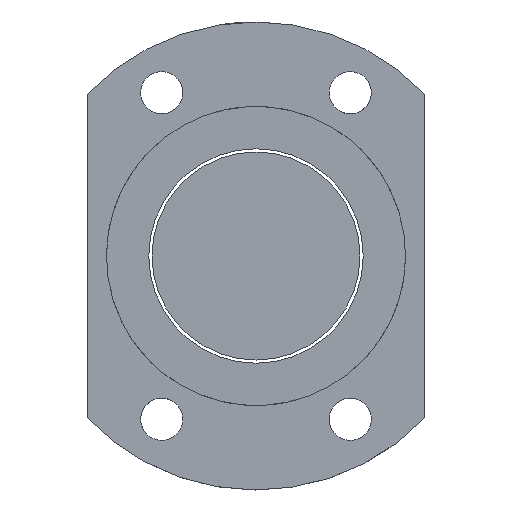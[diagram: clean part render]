
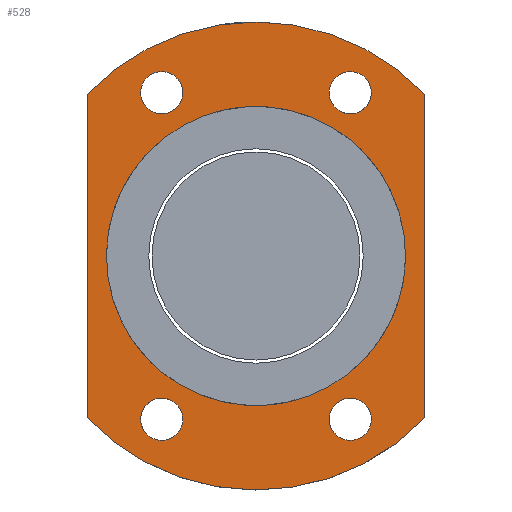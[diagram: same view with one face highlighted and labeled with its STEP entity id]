
A CAD part, left-side view. The second image highlights one B-rep face of the part: STEP entity #528.
In plain terms, the highlighted planar face has unit normal (-1, 0, 0).
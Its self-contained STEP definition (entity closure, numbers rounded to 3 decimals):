
#173=CARTESIAN_POINT('Vertex',(-12.,-26.,24.9)) ;
#187=CARTESIAN_POINT('Vertex',(-12.,26.,24.9)) ;
#190=CARTESIAN_POINT('Axis2P3D Location',(-12.,0.,0.)) ;
#255=CARTESIAN_POINT('Line Origine',(-12.,-26.,0.)) ;
#259=CARTESIAN_POINT('Vertex',(-12.,-26.,-24.9)) ;
#391=CARTESIAN_POINT('Line Origine',(-12.,26.,0.)) ;
#395=CARTESIAN_POINT('Vertex',(-12.,26.,-24.9)) ;
#410=CARTESIAN_POINT('Axis2P3D Location',(-12.,0.,66.513)) ;
#416=CARTESIAN_POINT('Control Point',(-12.,-26.,-24.9)) ;
#417=CARTESIAN_POINT('Control Point',(-12.,-23.56,-27.447)) ;
#418=CARTESIAN_POINT('Control Point',(-12.,-20.809,-29.696)) ;
#419=CARTESIAN_POINT('Control Point',(-12.,-17.794,-31.595)) ;
#420=CARTESIAN_POINT('Control Point',(-12.,-11.36,-34.615)) ;
#421=CARTESIAN_POINT('Control Point',(-12.,-4.388,-35.994)) ;
#422=CARTESIAN_POINT('Control Point',(-12.,-0.834,-36.251)) ;
#423=CARTESIAN_POINT('Control Point',(-12.,6.264,-35.89)) ;
#424=CARTESIAN_POINT('Control Point',(-12.,13.065,-33.826)) ;
#425=CARTESIAN_POINT('Control Point',(-12.,16.321,-32.38)) ;
#426=CARTESIAN_POINT('Control Point',(-12.,20.265,-30.012)) ;
#427=CARTESIAN_POINT('Control Point',(-12.,23.763,-27.073)) ;
#428=CARTESIAN_POINT('Control Point',(-12.,24.536,-26.374)) ;
#429=CARTESIAN_POINT('Control Point',(-12.,25.282,-25.65)) ;
#430=CARTESIAN_POINT('Control Point',(-12.,26.,-24.9)) ;
#438=CARTESIAN_POINT('Axis2P3D Location',(-12.,14.5,-25.115)) ;
#442=CARTESIAN_POINT('Vertex',(-12.,17.352,-26.673)) ;
#444=CARTESIAN_POINT('Vertex',(-12.,11.648,-23.557)) ;
#447=CARTESIAN_POINT('Axis2P3D Location',(-12.,14.5,-25.115)) ;
#456=CARTESIAN_POINT('Axis2P3D Location',(-12.,-14.5,-25.115)) ;
#460=CARTESIAN_POINT('Vertex',(-12.,-17.352,-23.557)) ;
#462=CARTESIAN_POINT('Vertex',(-12.,-11.648,-26.673)) ;
#465=CARTESIAN_POINT('Axis2P3D Location',(-12.,-14.5,-25.115)) ;
#474=CARTESIAN_POINT('Axis2P3D Location',(-12.,-14.5,25.115)) ;
#478=CARTESIAN_POINT('Vertex',(-12.,-17.352,26.673)) ;
#480=CARTESIAN_POINT('Vertex',(-12.,-11.648,23.557)) ;
#483=CARTESIAN_POINT('Axis2P3D Location',(-12.,-14.5,25.115)) ;
#492=CARTESIAN_POINT('Axis2P3D Location',(-12.,14.5,25.115)) ;
#496=CARTESIAN_POINT('Vertex',(-12.,17.352,23.557)) ;
#498=CARTESIAN_POINT('Vertex',(-12.,11.648,26.673)) ;
#501=CARTESIAN_POINT('Axis2P3D Location',(-12.,14.5,25.115)) ;
#510=CARTESIAN_POINT('Axis2P3D Location',(-12.,0.,0.)) ;
#514=CARTESIAN_POINT('Vertex',(-12.,11.027,20.184)) ;
#516=CARTESIAN_POINT('Vertex',(-12.,-11.027,-20.184)) ;
#519=CARTESIAN_POINT('Axis2P3D Location',(-12.,0.,0.)) ;
#191=DIRECTION('Axis2P3D Direction',(1.,0.,0.)) ;
#256=DIRECTION('Vector Direction',(0.,0.,-1.)) ;
#392=DIRECTION('Vector Direction',(0.,0.,1.)) ;
#411=DIRECTION('Axis2P3D Direction',(-1.,0.,0.)) ;
#412=DIRECTION('Axis2P3D XDirection',(0.,1.,0.)) ;
#439=DIRECTION('Axis2P3D Direction',(-1.,0.,0.)) ;
#448=DIRECTION('Axis2P3D Direction',(-1.,0.,0.)) ;
#457=DIRECTION('Axis2P3D Direction',(-1.,0.,0.)) ;
#466=DIRECTION('Axis2P3D Direction',(-1.,0.,0.)) ;
#475=DIRECTION('Axis2P3D Direction',(-1.,0.,0.)) ;
#484=DIRECTION('Axis2P3D Direction',(-1.,0.,0.)) ;
#493=DIRECTION('Axis2P3D Direction',(-1.,0.,0.)) ;
#502=DIRECTION('Axis2P3D Direction',(-1.,0.,0.)) ;
#511=DIRECTION('Axis2P3D Direction',(-1.,0.,0.)) ;
#520=DIRECTION('Axis2P3D Direction',(-1.,0.,0.)) ;
#192=AXIS2_PLACEMENT_3D('Circle Axis2P3D',#190,#191,$) ;
#413=AXIS2_PLACEMENT_3D('Plane Axis2P3D',#410,#411,#412) ;
#440=AXIS2_PLACEMENT_3D('Circle Axis2P3D',#438,#439,$) ;
#449=AXIS2_PLACEMENT_3D('Circle Axis2P3D',#447,#448,$) ;
#458=AXIS2_PLACEMENT_3D('Circle Axis2P3D',#456,#457,$) ;
#467=AXIS2_PLACEMENT_3D('Circle Axis2P3D',#465,#466,$) ;
#476=AXIS2_PLACEMENT_3D('Circle Axis2P3D',#474,#475,$) ;
#485=AXIS2_PLACEMENT_3D('Circle Axis2P3D',#483,#484,$) ;
#494=AXIS2_PLACEMENT_3D('Circle Axis2P3D',#492,#493,$) ;
#503=AXIS2_PLACEMENT_3D('Circle Axis2P3D',#501,#502,$) ;
#512=AXIS2_PLACEMENT_3D('Circle Axis2P3D',#510,#511,$) ;
#521=AXIS2_PLACEMENT_3D('Circle Axis2P3D',#519,#520,$) ;
#433=ORIENTED_EDGE('',*,*,#194,.T.) ;
#434=ORIENTED_EDGE('',*,*,#397,.F.) ;
#435=ORIENTED_EDGE('',*,*,#431,.T.) ;
#436=ORIENTED_EDGE('',*,*,#261,.F.) ;
#453=ORIENTED_EDGE('',*,*,#446,.F.) ;
#454=ORIENTED_EDGE('',*,*,#451,.F.) ;
#471=ORIENTED_EDGE('',*,*,#464,.F.) ;
#472=ORIENTED_EDGE('',*,*,#469,.F.) ;
#489=ORIENTED_EDGE('',*,*,#482,.F.) ;
#490=ORIENTED_EDGE('',*,*,#487,.F.) ;
#507=ORIENTED_EDGE('',*,*,#500,.F.) ;
#508=ORIENTED_EDGE('',*,*,#505,.F.) ;
#525=ORIENTED_EDGE('',*,*,#518,.F.) ;
#526=ORIENTED_EDGE('',*,*,#523,.F.) ;
#455=FACE_BOUND('',#452,.T.) ;
#473=FACE_BOUND('',#470,.T.) ;
#491=FACE_BOUND('',#488,.T.) ;
#509=FACE_BOUND('',#506,.T.) ;
#527=FACE_BOUND('',#524,.T.) ;
#257=VECTOR('Line Direction',#256,1.) ;
#393=VECTOR('Line Direction',#392,1.) ;
#528=ADVANCED_FACE('NUT',(#437,#455,#473,#491,#509,#527),#414,.T.) ;
#415=B_SPLINE_CURVE_WITH_KNOTS('',5,(#416,#417,#418,#419,#420,#421,#422,#423,#424,#425,#426,#427,#428,#429,#430),.UNSPECIFIED.,.F.,.U.,(6,3,3,3,6),(0.,24.941,49.883,74.824,82.168),.UNSPECIFIED.) ;
#193=CIRCLE('generated circle',#192,36.) ;
#441=CIRCLE('generated circle',#440,3.25) ;
#450=CIRCLE('generated circle',#449,3.25) ;
#459=CIRCLE('generated circle',#458,3.25) ;
#468=CIRCLE('generated circle',#467,3.25) ;
#477=CIRCLE('generated circle',#476,3.25) ;
#486=CIRCLE('generated circle',#485,3.25) ;
#495=CIRCLE('generated circle',#494,3.25) ;
#504=CIRCLE('generated circle',#503,3.25) ;
#513=CIRCLE('generated circle',#512,23.) ;
#522=CIRCLE('generated circle',#521,23.) ;
#194=EDGE_CURVE('',#174,#188,#193,.F.) ;
#261=EDGE_CURVE('',#174,#260,#258,.T.) ;
#397=EDGE_CURVE('',#396,#188,#394,.T.) ;
#431=EDGE_CURVE('',#396,#260,#415,.F.) ;
#446=EDGE_CURVE('',#443,#445,#441,.T.) ;
#451=EDGE_CURVE('',#445,#443,#450,.T.) ;
#464=EDGE_CURVE('',#461,#463,#459,.T.) ;
#469=EDGE_CURVE('',#463,#461,#468,.T.) ;
#482=EDGE_CURVE('',#479,#481,#477,.T.) ;
#487=EDGE_CURVE('',#481,#479,#486,.T.) ;
#500=EDGE_CURVE('',#497,#499,#495,.T.) ;
#505=EDGE_CURVE('',#499,#497,#504,.T.) ;
#518=EDGE_CURVE('',#515,#517,#513,.T.) ;
#523=EDGE_CURVE('',#517,#515,#522,.T.) ;
#432=EDGE_LOOP('',(#433,#434,#435,#436)) ;
#452=EDGE_LOOP('',(#453,#454)) ;
#470=EDGE_LOOP('',(#471,#472)) ;
#488=EDGE_LOOP('',(#489,#490)) ;
#506=EDGE_LOOP('',(#507,#508)) ;
#524=EDGE_LOOP('',(#525,#526)) ;
#437=FACE_OUTER_BOUND('',#432,.T.) ;
#258=LINE('Line',#255,#257) ;
#394=LINE('Line',#391,#393) ;
#414=PLANE('',#413) ;
#174=VERTEX_POINT('',#173) ;
#188=VERTEX_POINT('',#187) ;
#260=VERTEX_POINT('',#259) ;
#396=VERTEX_POINT('',#395) ;
#443=VERTEX_POINT('',#442) ;
#445=VERTEX_POINT('',#444) ;
#461=VERTEX_POINT('',#460) ;
#463=VERTEX_POINT('',#462) ;
#479=VERTEX_POINT('',#478) ;
#481=VERTEX_POINT('',#480) ;
#497=VERTEX_POINT('',#496) ;
#499=VERTEX_POINT('',#498) ;
#515=VERTEX_POINT('',#514) ;
#517=VERTEX_POINT('',#516) ;
